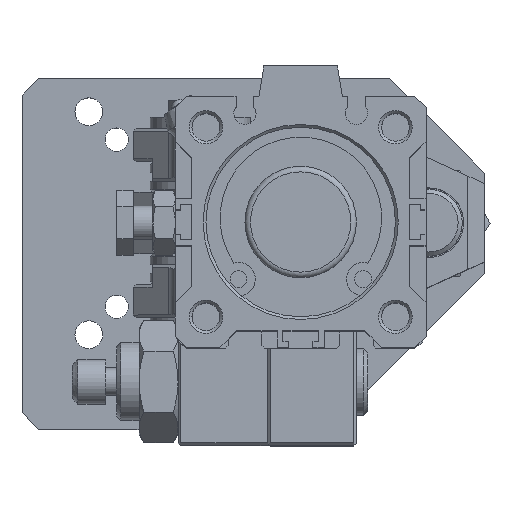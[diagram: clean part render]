
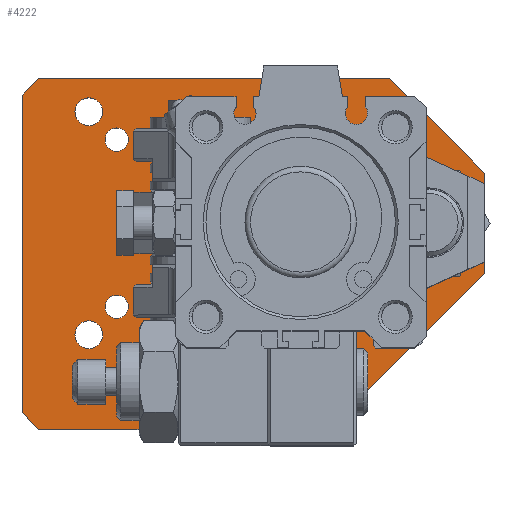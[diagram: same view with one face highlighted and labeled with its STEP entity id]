
A CAD part, top view. The second image highlights one B-rep face of the part: STEP entity #4222.
In plain terms, the highlighted planar face has unit normal (0, 0, 1).
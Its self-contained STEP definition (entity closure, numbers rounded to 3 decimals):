
#1613=LINE('',#24763,#2582);
#1614=LINE('',#24766,#2583);
#1615=LINE('',#24768,#2584);
#1616=LINE('',#24770,#2585);
#1617=LINE('',#24771,#2586);
#1618=LINE('',#24774,#2587);
#1619=LINE('',#24776,#2588);
#1620=LINE('',#24778,#2589);
#1621=LINE('',#24780,#2590);
#1622=LINE('',#24782,#2591);
#1623=LINE('',#24784,#2592);
#1624=LINE('',#24786,#2593);
#2582=VECTOR('',#19684,1.);
#2583=VECTOR('',#19685,1.);
#2584=VECTOR('',#19686,1.);
#2585=VECTOR('',#19687,1.);
#2586=VECTOR('',#19688,1.);
#2587=VECTOR('',#19689,1.);
#2588=VECTOR('',#19690,1.);
#2589=VECTOR('',#19691,1.);
#2590=VECTOR('',#19692,1.);
#2591=VECTOR('',#19693,1.);
#2592=VECTOR('',#19694,1.);
#2593=VECTOR('',#19695,1.);
#3321=FACE_BOUND('',#6559,.T.);
#3322=FACE_BOUND('',#6560,.T.);
#3323=FACE_BOUND('',#6561,.T.);
#3324=FACE_BOUND('',#6562,.T.);
#3325=FACE_BOUND('',#6563,.T.);
#3326=FACE_BOUND('',#6564,.T.);
#3327=FACE_BOUND('',#6565,.T.);
#3328=FACE_BOUND('',#6566,.T.);
#3329=FACE_BOUND('',#6567,.T.);
#3330=FACE_BOUND('',#6568,.T.);
#3331=FACE_BOUND('',#6569,.T.);
#3332=FACE_BOUND('',#6570,.T.);
#4222=ADVANCED_FACE('',(#3321,#3322,#3323,#3324,#3325,#3326,#3327,#3328,
#3329,#3330,#3331,#3332),#4824,.F.);
#4824=PLANE('',#15792);
#6559=EDGE_LOOP('',(#9987,#9988,#9989,#9990));
#6560=EDGE_LOOP('',(#9991,#9992,#9993,#9994,#9995,#9996,#9997,#9998));
#6561=EDGE_LOOP('',(#9999));
#6562=EDGE_LOOP('',(#10000));
#6563=EDGE_LOOP('',(#10001));
#6564=EDGE_LOOP('',(#10002));
#6565=EDGE_LOOP('',(#10003));
#6566=EDGE_LOOP('',(#10004));
#6567=EDGE_LOOP('',(#10005));
#6568=EDGE_LOOP('',(#10006));
#6569=EDGE_LOOP('',(#10007));
#6570=EDGE_LOOP('',(#10008));
#9987=ORIENTED_EDGE('',*,*,#13415,.F.);
#9988=ORIENTED_EDGE('',*,*,#13416,.T.);
#9989=ORIENTED_EDGE('',*,*,#13417,.F.);
#9990=ORIENTED_EDGE('',*,*,#13418,.F.);
#9991=ORIENTED_EDGE('',*,*,#13419,.F.);
#9992=ORIENTED_EDGE('',*,*,#13420,.F.);
#9993=ORIENTED_EDGE('',*,*,#13421,.F.);
#9994=ORIENTED_EDGE('',*,*,#13422,.F.);
#9995=ORIENTED_EDGE('',*,*,#13423,.F.);
#9996=ORIENTED_EDGE('',*,*,#13424,.T.);
#9997=ORIENTED_EDGE('',*,*,#13425,.F.);
#9998=ORIENTED_EDGE('',*,*,#13426,.T.);
#9999=ORIENTED_EDGE('',*,*,#13427,.F.);
#10000=ORIENTED_EDGE('',*,*,#13414,.F.);
#10001=ORIENTED_EDGE('',*,*,#13428,.F.);
#10002=ORIENTED_EDGE('',*,*,#13429,.F.);
#10003=ORIENTED_EDGE('',*,*,#13430,.F.);
#10004=ORIENTED_EDGE('',*,*,#13431,.F.);
#10005=ORIENTED_EDGE('',*,*,#13432,.F.);
#10006=ORIENTED_EDGE('',*,*,#13433,.F.);
#10007=ORIENTED_EDGE('',*,*,#13434,.F.);
#10008=ORIENTED_EDGE('',*,*,#13435,.F.);
#11608=VERTEX_POINT('',#24761);
#11609=VERTEX_POINT('',#24764);
#11610=VERTEX_POINT('',#24765);
#11611=VERTEX_POINT('',#24767);
#11612=VERTEX_POINT('',#24769);
#11613=VERTEX_POINT('',#24772);
#11614=VERTEX_POINT('',#24773);
#11615=VERTEX_POINT('',#24775);
#11616=VERTEX_POINT('',#24777);
#11617=VERTEX_POINT('',#24779);
#11618=VERTEX_POINT('',#24781);
#11619=VERTEX_POINT('',#24783);
#11620=VERTEX_POINT('',#24785);
#11621=VERTEX_POINT('',#24788);
#11622=VERTEX_POINT('',#24790);
#11623=VERTEX_POINT('',#24792);
#11624=VERTEX_POINT('',#24794);
#11625=VERTEX_POINT('',#24796);
#11626=VERTEX_POINT('',#24798);
#11627=VERTEX_POINT('',#24800);
#11628=VERTEX_POINT('',#24802);
#11629=VERTEX_POINT('',#24804);
#13414=EDGE_CURVE('',#11608,#11608,#14260,.T.);
#13415=EDGE_CURVE('',#11609,#11610,#1613,.T.);
#13416=EDGE_CURVE('',#11609,#11611,#1614,.T.);
#13417=EDGE_CURVE('',#11612,#11611,#1615,.T.);
#13418=EDGE_CURVE('',#11610,#11612,#1616,.T.);
#13419=EDGE_CURVE('',#11613,#11614,#1617,.T.);
#13420=EDGE_CURVE('',#11615,#11613,#1618,.T.);
#13421=EDGE_CURVE('',#11616,#11615,#1619,.T.);
#13422=EDGE_CURVE('',#11617,#11616,#1620,.T.);
#13423=EDGE_CURVE('',#11618,#11617,#1621,.T.);
#13424=EDGE_CURVE('',#11618,#11619,#1622,.T.);
#13425=EDGE_CURVE('',#11620,#11619,#1623,.T.);
#13426=EDGE_CURVE('',#11620,#11614,#1624,.T.);
#13427=EDGE_CURVE('',#11621,#11621,#14261,.T.);
#13428=EDGE_CURVE('',#11622,#11622,#14262,.T.);
#13429=EDGE_CURVE('',#11623,#11623,#14263,.T.);
#13430=EDGE_CURVE('',#11624,#11624,#14264,.T.);
#13431=EDGE_CURVE('',#11625,#11625,#14265,.T.);
#13432=EDGE_CURVE('',#11626,#11626,#14266,.T.);
#13433=EDGE_CURVE('',#11627,#11627,#14267,.T.);
#13434=EDGE_CURVE('',#11628,#11628,#14268,.T.);
#13435=EDGE_CURVE('',#11629,#11629,#14269,.T.);
#14260=CIRCLE('',#15781,2.1);
#14261=CIRCLE('',#15783,2.5);
#14262=CIRCLE('',#15784,2.1);
#14263=CIRCLE('',#15785,2.1);
#14264=CIRCLE('',#15786,2.5);
#14265=CIRCLE('',#15787,2.5);
#14266=CIRCLE('',#15788,2.1);
#14267=CIRCLE('',#15789,2.1);
#14268=CIRCLE('',#15790,2.1);
#14269=CIRCLE('',#15791,2.5);
#15781=AXIS2_PLACEMENT_3D('',#24760,#19680,#19681);
#15783=AXIS2_PLACEMENT_3D('',#24787,#19696,#19697);
#15784=AXIS2_PLACEMENT_3D('',#24789,#19698,#19699);
#15785=AXIS2_PLACEMENT_3D('',#24791,#19700,#19701);
#15786=AXIS2_PLACEMENT_3D('',#24793,#19702,#19703);
#15787=AXIS2_PLACEMENT_3D('',#24795,#19704,#19705);
#15788=AXIS2_PLACEMENT_3D('',#24797,#19706,#19707);
#15789=AXIS2_PLACEMENT_3D('',#24799,#19708,#19709);
#15790=AXIS2_PLACEMENT_3D('',#24801,#19710,#19711);
#15791=AXIS2_PLACEMENT_3D('',#24803,#19712,#19713);
#15792=AXIS2_PLACEMENT_3D('',#24805,#19714,#19715);
#19680=DIRECTION('',(0.,0.,1.));
#19681=DIRECTION('',(1.,0.,0.));
#19684=DIRECTION('',(-1.,0.,0.));
#19685=DIRECTION('',(0.,-1.,0.));
#19686=DIRECTION('',(1.,0.,0.));
#19687=DIRECTION('',(0.,-1.,0.));
#19688=DIRECTION('',(-1.,0.,0.));
#19689=DIRECTION('',(-0.707,-0.707,0.));
#19690=DIRECTION('',(0.,-1.,0.));
#19691=DIRECTION('',(0.707,-0.707,0.));
#19692=DIRECTION('',(1.,0.,0.));
#19693=DIRECTION('',(-0.707,-0.707,0.));
#19694=DIRECTION('',(0.,1.,0.));
#19695=DIRECTION('',(0.707,-0.707,0.));
#19696=DIRECTION('',(0.,0.,1.));
#19697=DIRECTION('',(1.,0.,0.));
#19698=DIRECTION('',(0.,0.,1.));
#19699=DIRECTION('',(1.,0.,0.));
#19700=DIRECTION('',(0.,0.,1.));
#19701=DIRECTION('',(1.,0.,0.));
#19702=DIRECTION('',(0.,0.,1.));
#19703=DIRECTION('',(1.,0.,0.));
#19704=DIRECTION('',(0.,0.,1.));
#19705=DIRECTION('',(1.,0.,0.));
#19706=DIRECTION('',(0.,0.,1.));
#19707=DIRECTION('',(1.,0.,0.));
#19708=DIRECTION('',(0.,0.,1.));
#19709=DIRECTION('',(1.,0.,0.));
#19710=DIRECTION('',(0.,0.,1.));
#19711=DIRECTION('',(1.,0.,0.));
#19712=DIRECTION('',(0.,0.,1.));
#19713=DIRECTION('',(1.,0.,0.));
#19714=DIRECTION('',(0.,0.,-1.));
#19715=DIRECTION('',(-1.,0.,0.));
#24760=CARTESIAN_POINT('',(-10.5,7.5,-129.5));
#24761=CARTESIAN_POINT('',(-8.4,7.5,-129.5));
#24763=CARTESIAN_POINT('',(19.5,28.,-129.5));
#24764=CARTESIAN_POINT('',(19.5,28.,-129.5));
#24765=CARTESIAN_POINT('',(-10.5,28.,-129.5));
#24766=CARTESIAN_POINT('',(19.5,28.,-129.5));
#24767=CARTESIAN_POINT('',(19.5,17.,-129.5));
#24768=CARTESIAN_POINT('',(-10.5,17.,-129.5));
#24769=CARTESIAN_POINT('',(-10.5,17.,-129.5));
#24770=CARTESIAN_POINT('',(-10.5,28.,-129.5));
#24771=CARTESIAN_POINT('',(27.5,-14.5,-129.5));
#24772=CARTESIAN_POINT('',(27.5,-14.5,-129.5));
#24773=CARTESIAN_POINT('',(-24.5,-14.5,-129.5));
#24774=CARTESIAN_POINT('',(55.5,13.5,-129.5));
#24775=CARTESIAN_POINT('',(55.5,13.5,-129.5));
#24776=CARTESIAN_POINT('',(55.5,31.5,-129.5));
#24777=CARTESIAN_POINT('',(55.5,31.5,-129.5));
#24778=CARTESIAN_POINT('',(38.5,48.5,-129.5));
#24779=CARTESIAN_POINT('',(38.5,48.5,-129.5));
#24780=CARTESIAN_POINT('',(-24.5,48.5,-129.5));
#24781=CARTESIAN_POINT('',(-24.5,48.5,-129.5));
#24782=CARTESIAN_POINT('',(-24.5,48.5,-129.5));
#24783=CARTESIAN_POINT('',(-27.5,45.5,-129.5));
#24784=CARTESIAN_POINT('',(-27.5,-11.5,-129.5));
#24785=CARTESIAN_POINT('',(-27.5,-11.5,-129.5));
#24786=CARTESIAN_POINT('',(-27.5,-11.5,-129.5));
#24787=CARTESIAN_POINT('',(24.5,2.5,-129.5));
#24788=CARTESIAN_POINT('',(27.,2.5,-129.5));
#24789=CARTESIAN_POINT('',(4.5,7.5,-129.5));
#24790=CARTESIAN_POINT('',(6.6,7.5,-129.5));
#24791=CARTESIAN_POINT('',(19.5,7.5,-129.5));
#24792=CARTESIAN_POINT('',(21.6,7.5,-129.5));
#24793=CARTESIAN_POINT('',(-15.5,42.5,-129.5));
#24794=CARTESIAN_POINT('',(-13.,42.5,-129.5));
#24795=CARTESIAN_POINT('',(24.5,42.5,-129.5));
#24796=CARTESIAN_POINT('',(27.,42.5,-129.5));
#24797=CARTESIAN_POINT('',(-10.5,37.5,-129.5));
#24798=CARTESIAN_POINT('',(-8.4,37.5,-129.5));
#24799=CARTESIAN_POINT('',(4.5,37.5,-129.5));
#24800=CARTESIAN_POINT('',(6.6,37.5,-129.5));
#24801=CARTESIAN_POINT('',(19.5,37.5,-129.5));
#24802=CARTESIAN_POINT('',(21.6,37.5,-129.5));
#24803=CARTESIAN_POINT('',(-15.5,2.5,-129.5));
#24804=CARTESIAN_POINT('',(-13.,2.5,-129.5));
#24805=CARTESIAN_POINT('',(-27.5,22.5,-129.5));
